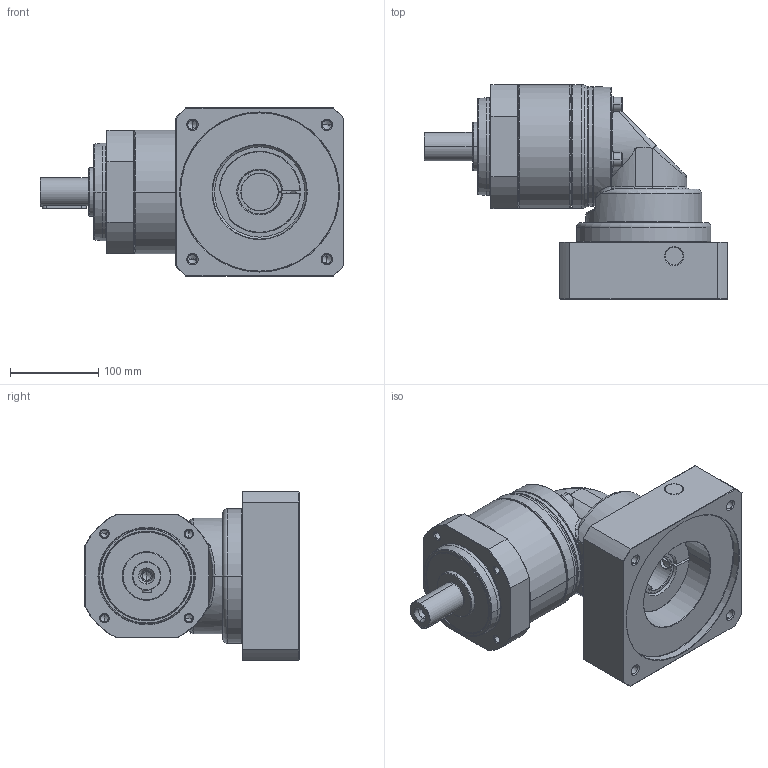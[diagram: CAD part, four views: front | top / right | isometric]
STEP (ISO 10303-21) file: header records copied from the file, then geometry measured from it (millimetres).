
FILE_DESCRIPTION((''),'2;1');
FILE_NAME('PS2R-E_1ST_42-P0411A00101_ASM','2016-05-30T',('d01943'),(''),'PRO/ENGINEER BY PARAMETRIC TECHNOLOGY CORPORATION, 2008410','PRO/ENGINEER BY PARAMETRIC TECHNOLOGY CORPORATION, 2008410','');
FILE_SCHEMA(('CONFIG_CONTROL_DESIGN'));
Length unit declared in the file: millimetre
Products named in the file (12): P1328510001; P0250500001; P0350501401; P1349500001; P1017500001; P0713506001; P0503A00012; P1350500601; P0411A00101; P1702700001; 2111BA10040; PS2R-E_1ST_42-P0411A00101_ASM
Assembly tree (14 placements, depth 2):
  PS2R-E_1ST_42-P0411A00101_ASM
    P1328510001
    P0250500001
    P0350501401
    P1349500001
    P1017500001
    P0713506001
    P0503A00012
    P1350500601
    P0411A00101
    P1702700001
    2111BA10040  x4
Bounding box: 343 x 242.5 x 190 mm (x, y, z)
Volume: 4075574.5 mm3; surface area: 564720.1 mm2
Topology: 14 solids, 14 shells, 713 faces, 1574 edges, 909 vertices
Faces by surface type: cylinder 210, cone 208, plane 167, torus 94, bspline 34
Entity records: 22931 total; most frequent: CARTESIAN_POINT 9232, DIRECTION 3010, ORIENTED_EDGE 2660, EDGE_CURVE 1330, AXIS2_PLACEMENT_3D 1264, VERTEX_POINT 789, EDGE_LOOP 691, CIRCLE 658
